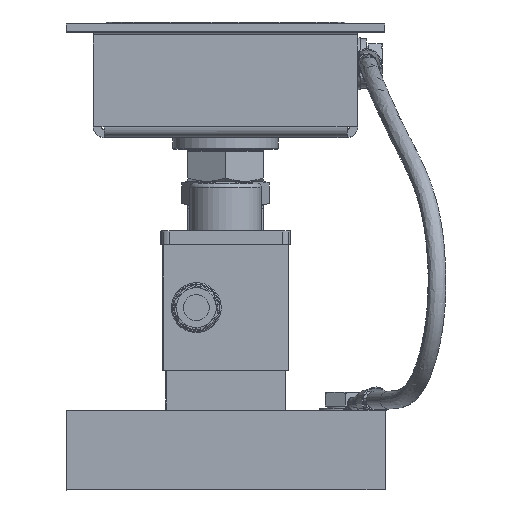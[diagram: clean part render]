
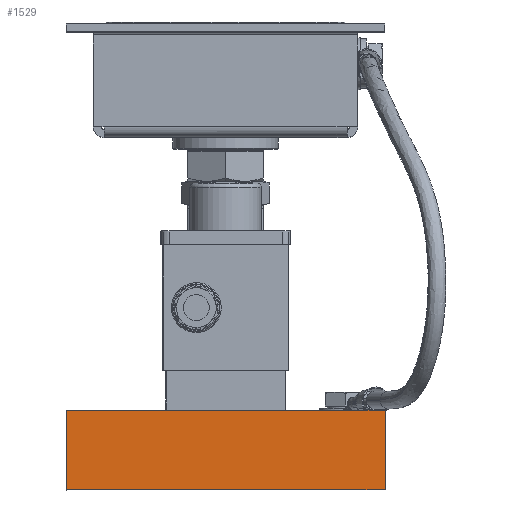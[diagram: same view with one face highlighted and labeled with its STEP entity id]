
A CAD part, front view. The second image highlights one B-rep face of the part: STEP entity #1529.
In plain terms, the highlighted planar face has unit normal (0.001, -1, 0) as drawn and (-1, 0, 0) by its records, which use the part's own axes.
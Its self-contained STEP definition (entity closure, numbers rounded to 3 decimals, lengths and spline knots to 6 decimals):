
#1529=ADVANCED_FACE('230:926',(#2910),#2911,.T.);
#2910=FACE_OUTER_BOUND('',#9478,.T.);
#2911=PLANE('',#9479);
#9478=EDGE_LOOP('',(#14328,#14329,#14330,#14331));
#9479=AXIS2_PLACEMENT_3D('',#14332,#14333,#14334);
#14328=ORIENTED_EDGE('',*,*,#15977,.T.);
#14329=ORIENTED_EDGE('',*,*,#15983,.F.);
#14330=ORIENTED_EDGE('',*,*,#15962,.F.);
#14331=ORIENTED_EDGE('',*,*,#15982,.T.);
#14332=CARTESIAN_POINT('',(-0.075,0.0,0.0));
#14333=DIRECTION('',(-1.0,-0.0,0.0));
#14334=DIRECTION('',(0.0,-1.0,-0.0));
#15962=EDGE_CURVE('230:968',#18470,#18471,#18472,.T.);
#15977=EDGE_CURVE('230:965',#18491,#18488,#18492,.F.);
#15982=EDGE_CURVE('230:959',#18470,#18491,#18498,.F.);
#15983=EDGE_CURVE('230:944',#18471,#18488,#18499,.T.);
#18470=VERTEX_POINT('',#23468);
#18471=VERTEX_POINT('',#23469);
#18472=LINE('',#23470,#23471);
#18488=VERTEX_POINT('',#23490);
#18491=VERTEX_POINT('',#23494);
#18492=LINE('',#23495,#23496);
#18498=LINE('',#23506,#23507);
#18499=LINE('',#23508,#23509);
#23468=CARTESIAN_POINT('',(-0.075,-0.04,0.0));
#23469=CARTESIAN_POINT('',(-0.075,0.04,0.0));
#23470=CARTESIAN_POINT('',(-0.075,0.0,0.0));
#23471=VECTOR('',#26214,1.0);
#23490=CARTESIAN_POINT('',(-0.075,0.04,0.02));
#23494=CARTESIAN_POINT('',(-0.075,-0.04,0.02));
#23495=CARTESIAN_POINT('',(-0.075,0.0,0.02));
#23496=VECTOR('',#26249,1.0);
#23506=CARTESIAN_POINT('',(-0.075,-0.04,0.0));
#23507=VECTOR('',#26254,1.0);
#23508=CARTESIAN_POINT('',(-0.075,0.04,0.0));
#23509=VECTOR('',#26255,1.0);
#26214=DIRECTION('',(0.0,1.0,-0.0));
#26249=DIRECTION('',(0.0,-1.0,0.0));
#26254=DIRECTION('',(-0.0,-0.0,-1.0));
#26255=DIRECTION('',(0.0,-0.0,1.0));
